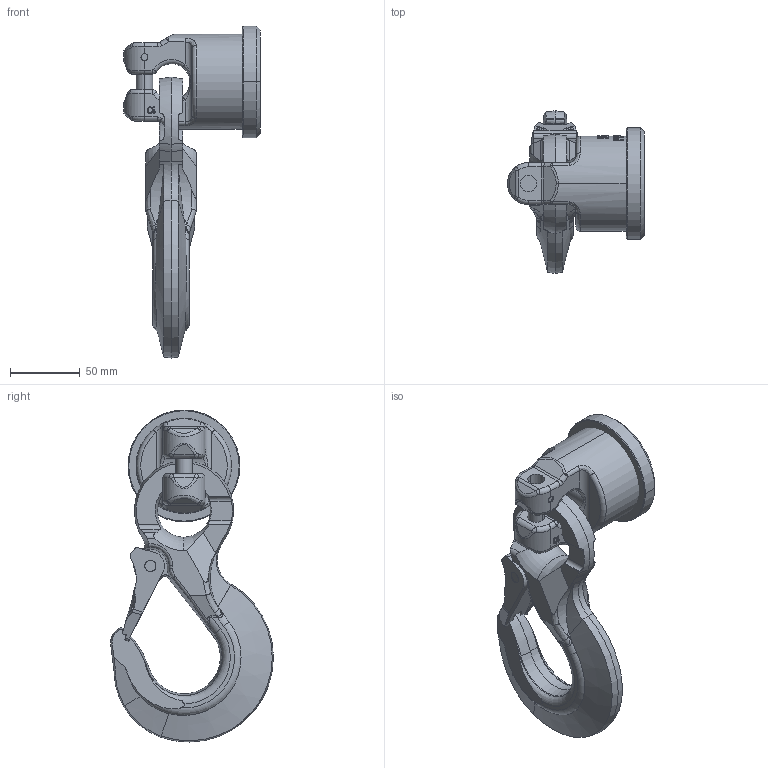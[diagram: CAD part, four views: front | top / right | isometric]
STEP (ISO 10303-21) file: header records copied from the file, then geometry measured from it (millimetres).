
FILE_DESCRIPTION((''),'2;1');
FILE_NAME('001-M31341-P-40_ASM','2018-04-27T',('Anja.Joas'),(''),'PRO/ENGINEER BY PARAMETRIC TECHNOLOGY CORPORATION, 2011490','PRO/ENGINEER BY PARAMETRIC TECHNOLOGY CORPORATION, 2011490','');
FILE_SCHEMA(('CONFIG_CONTROL_DESIGN'));
Length unit declared in the file: millimetre
Products named in the file (6): 001-M31341-P-20; 001-M31341-P-50; 001-M31166-001; 001-M31192-001; 001-M31166-002_ASM; 001-M31341-P-40_ASM
Assembly tree (5 placements, depth 3):
  001-M31341-P-40_ASM
    001-M31341-P-20
    001-M31341-P-50
    001-M31166-002_ASM
      001-M31166-001
      001-M31192-001
Bounding box: 98 x 116.5 x 237.5 mm (x, y, z)
Volume: 478012.5 mm3; surface area: 80763.6 mm2
Topology: 4 solids, 4 shells, 711 faces, 1922 edges, 1226 vertices
Faces by surface type: plane 438, cylinder 119, bspline 46, cone 40, torus 34, sphere 34
Entity records: 25399 total; most frequent: CARTESIAN_POINT 8220, ORIENTED_EDGE 3788, DIRECTION 3228, EDGE_CURVE 1894, VERTEX_POINT 1226, AXIS2_PLACEMENT_3D 1096, VECTOR 1036, LINE 1036
